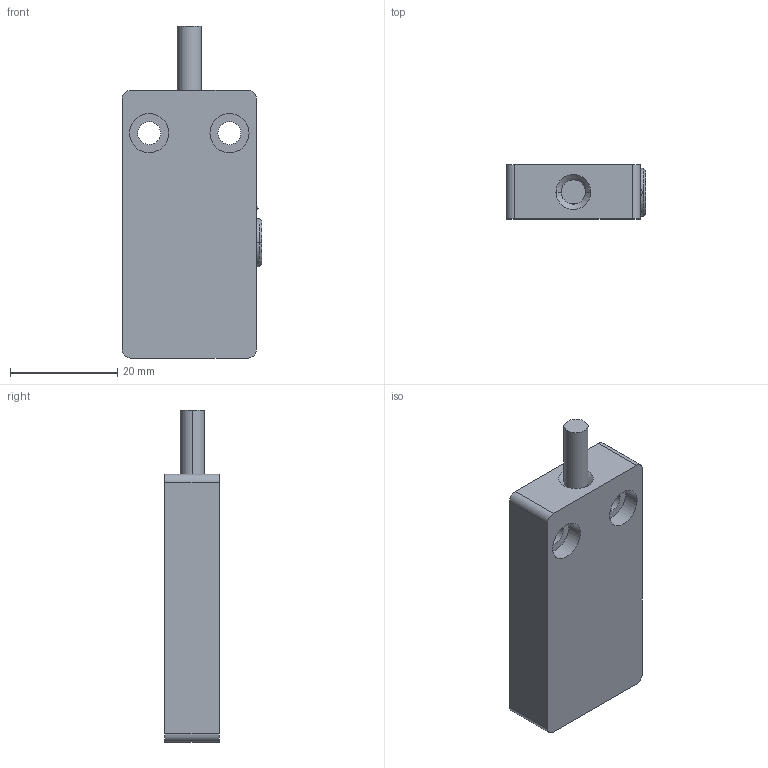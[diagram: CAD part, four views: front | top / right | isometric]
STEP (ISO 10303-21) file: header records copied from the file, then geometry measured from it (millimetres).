
FILE_DESCRIPTION((''),'2;1');
FILE_NAME('6507990001_SW0001','2024-05-22T11:38:19',('Rudolf.Poettker'),(''),'CREO PARAMETRIC BY PTC INC, 2022124','CREO PARAMETRIC BY PTC INC, 2022124','');
FILE_SCHEMA(('AUTOMOTIVE_DESIGN { 1 0 10303 214 1 1 1 1 }'));
Length unit declared in the file: millimetre
Products named in the file (1): 6507990001_SW0001
Bounding box: 26 x 10.1 x 62 mm (x, y, z)
Volume: 12155.9 mm3; surface area: 4580.6 mm2
Topology: 1 solids, 1 shells, 76 faces, 174 edges, 113 vertices
Faces by surface type: plane 36, cylinder 32, cone 6, sphere 2
Entity records: 3869 total; most frequent: DIRECTION 424, CARTESIAN_POINT 380, ORIENTED_EDGE 344, PRESENTATION_STYLE_ASSIGNMENT 253, STYLED_ITEM 177, CURVE_STYLE 176, EDGE_CURVE 172, AXIS2_PLACEMENT_3D 160
